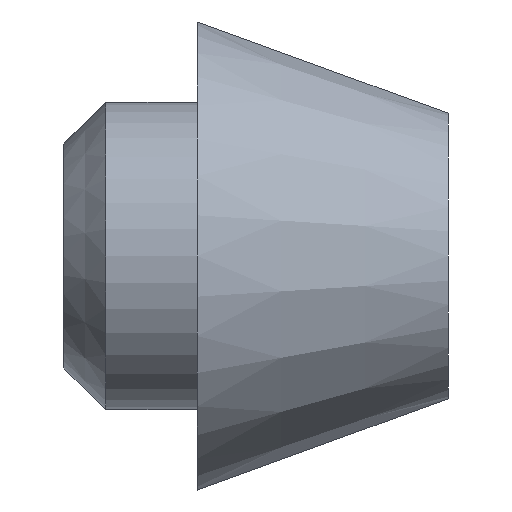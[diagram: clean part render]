
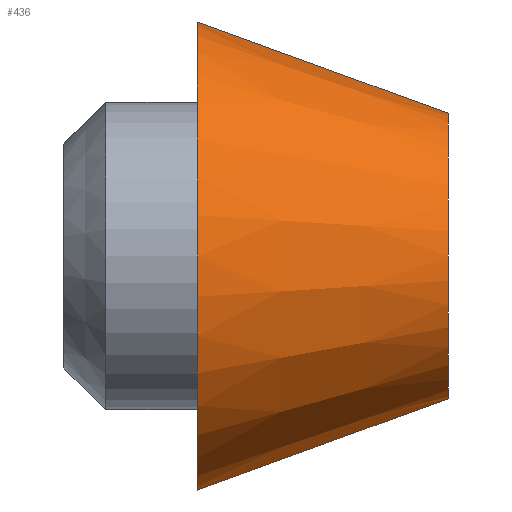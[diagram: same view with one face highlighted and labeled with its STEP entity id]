
A CAD part, left-side view. The second image highlights one B-rep face of the part: STEP entity #436.
In plain terms, the highlighted conical face has half-angle 20 degrees and reference radius 4.445 mm.
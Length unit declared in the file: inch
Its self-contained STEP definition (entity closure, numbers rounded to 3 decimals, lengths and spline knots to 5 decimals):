
#1 = LINE ( 'NONE', #104, #399 ) ;
#9 = CIRCLE ( 'NONE', #418, 0.175 ) ;
#18 = EDGE_CURVE ( 'NONE', #157, #371, #221, .T. ) ;
#68 = DIRECTION ( 'NONE',  ( 0., 0.94, -0.342 ) ) ;
#104 = CARTESIAN_POINT ( 'NONE',  ( -0.25, 0., 0.175 ) ) ;
#130 = CARTESIAN_POINT ( 'NONE',  ( -0.25, 0., 0. ) ) ;
#145 = CARTESIAN_POINT ( 'NONE',  ( -0.25, -0.1875, 0.10676 ) ) ;
#157 = VERTEX_POINT ( 'NONE', #256 ) ;
#178 = CARTESIAN_POINT ( 'NONE',  ( -0.25, 0., 0. ) ) ;
#204 = ORIENTED_EDGE ( 'NONE', *, *, #304, .F. ) ;
#206 = ORIENTED_EDGE ( 'NONE', *, *, #18, .T. ) ;
#209 = FACE_OUTER_BOUND ( 'NONE', #265, .T. ) ;
#220 = AXIS2_PLACEMENT_3D ( 'NONE', #178, #468, #232 ) ;
#221 = CIRCLE ( 'NONE', #343, 0.10676 ) ;
#232 = DIRECTION ( 'NONE',  ( 0., 0., 1. ) ) ;
#236 = ORIENTED_EDGE ( 'NONE', *, *, #259, .F. ) ;
#246 = CARTESIAN_POINT ( 'NONE',  ( -0.25, -0.1875, 0. ) ) ;
#250 = DIRECTION ( 'NONE',  ( 0., 0.94, 0.342 ) ) ;
#253 = CARTESIAN_POINT ( 'NONE',  ( -0.25, 0., -0.175 ) ) ;
#256 = CARTESIAN_POINT ( 'NONE',  ( -0.25, -0.1875, -0.10676 ) ) ;
#259 = EDGE_CURVE ( 'NONE', #157, #353, #313, .T. ) ;
#265 = EDGE_LOOP ( 'NONE', ( #204, #236, #206, #445 ) ) ;
#304 = EDGE_CURVE ( 'NONE', #353, #458, #9, .T. ) ;
#313 = LINE ( 'NONE', #253, #375 ) ;
#325 = DIRECTION ( 'NONE',  ( 0., 1., 0. ) ) ;
#342 = CONICAL_SURFACE ( 'NONE', #220, 0.175, 0.349 ) ;
#343 = AXIS2_PLACEMENT_3D ( 'NONE', #246, #325, #470 ) ;
#352 = CARTESIAN_POINT ( 'NONE',  ( -0.25, 0., 0.175 ) ) ;
#353 = VERTEX_POINT ( 'NONE', #428 ) ;
#371 = VERTEX_POINT ( 'NONE', #145 ) ;
#375 = VECTOR ( 'NONE', #68, 39.37008 ) ;
#378 = EDGE_CURVE ( 'NONE', #371, #458, #1, .T. ) ;
#385 = DIRECTION ( 'NONE',  ( 0., 0., 1. ) ) ;
#399 = VECTOR ( 'NONE', #250, 39.37008 ) ;
#417 = DIRECTION ( 'NONE',  ( 0., 1., 0. ) ) ;
#418 = AXIS2_PLACEMENT_3D ( 'NONE', #130, #417, #385 ) ;
#428 = CARTESIAN_POINT ( 'NONE',  ( -0.25, 0., -0.175 ) ) ;
#436 = ADVANCED_FACE ( 'NONE', ( #209 ), #342, .T. ) ;
#445 = ORIENTED_EDGE ( 'NONE', *, *, #378, .T. ) ;
#458 = VERTEX_POINT ( 'NONE', #352 ) ;
#468 = DIRECTION ( 'NONE',  ( 0., 1., 0. ) ) ;
#470 = DIRECTION ( 'NONE',  ( 0., 0., 1. ) ) ;
